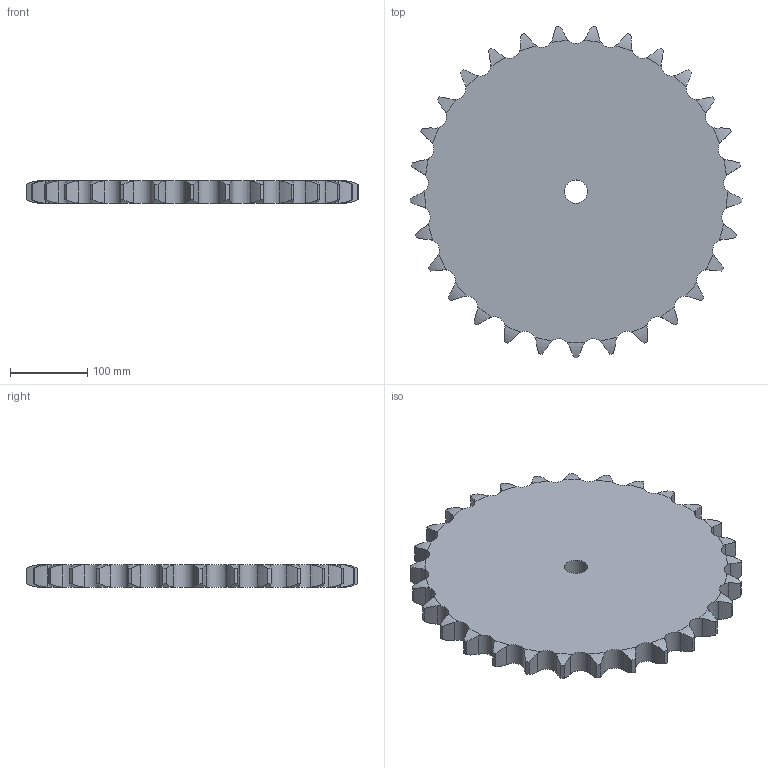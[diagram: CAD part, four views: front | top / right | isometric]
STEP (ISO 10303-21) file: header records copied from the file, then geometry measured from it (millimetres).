
FILE_DESCRIPTION((''),'2;1');
FILE_NAME('500-751-0029_PRT','2021-02-12T',('Brieden'),('Brieden'),'PRO/ENGINEER BY PARAMETRIC TECHNOLOGY CORPORATION, 2010160','PRO/ENGINEER BY PARAMETRIC TECHNOLOGY CORPORATION, 2010160','');
FILE_SCHEMA(('AUTOMOTIVE_DESIGN { 1 0 10303 214 1 1 1 1 }'));
Length unit declared in the file: millimetre
Products named in the file (1): 500-751-0029_PRT
Bounding box: 429.6 x 428.98 x 29.4 mm (x, y, z)
Volume: 3674427.8 mm3; surface area: 308764.1 mm2
Topology: 1 solids, 1 shells, 178 faces, 528 edges, 352 vertices
Faces by surface type: cylinder 118, torus 58, plane 2
Entity records: 9088 total; most frequent: CARTESIAN_POINT 2945, ORIENTED_EDGE 1056, DIRECTION 830, PRESENTATION_STYLE_ASSIGNMENT 529, STYLED_ITEM 529, CURVE_STYLE 528, EDGE_CURVE 528, AXIS2_PLACEMENT_3D 356
